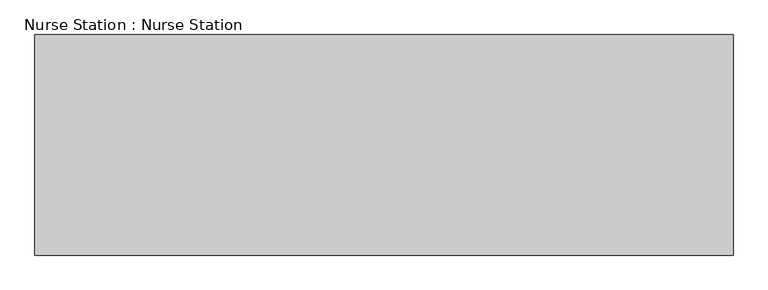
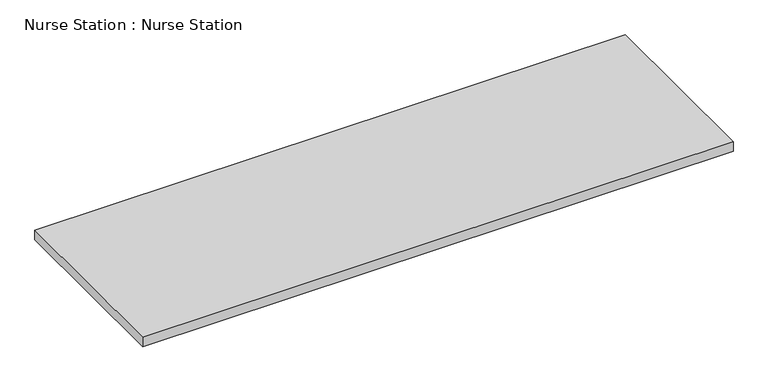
"""IFC4 building model written with IfcOpenShell, lengths in millimetres: furniture geometry, Nurse Station : Nurse Station."""

from ifc_helpers import new_model, si_unit, frame, origin, place, context, project, spatial, polyline, outline, extrude, source, transform, mapped, element, save


def nurse_station_nurse_station_bd2f0480(model_context):
    return source(origin(), model_context, "Body", "SweptSolid", [
        extrude(outline(polyline([(45848.96766, -10455.3684808), (43475.46766, -10455.3684808), (43475.46766, -9705.3684808), (45848.96766, -9705.3684808), (45848.96766, -10455.3684808)])), frame((0.0, 0.0, 710.0), z_axis=(0.0, 0.0, 1.0), x_axis=(1.0, 0.0, 0.0)), (0.0, 0.0, 1.0), 40.0),
    ])


if __name__ == "__main__":
    model = new_model("IFC4")
    model_context = context("Model", 3, world=origin())
    ifc_project = project(units=[si_unit("LENGTHUNIT", "METRE", prefix="MILLI")], contexts=[model_context])
    site = spatial("IfcSite", under=ifc_project)
    building = spatial("IfcBuilding", under=site)
    placement = place(None, origin())
    nurse_station_nurse_station_shape = nurse_station_nurse_station_bd2f0480(model_context)
    element("IfcFurniture", 1, ObjectType="Nurse Station : Nurse Station", at=placement, inside=building, context=model_context, shape_type="MappedRepresentation", body=[
        mapped(nurse_station_nurse_station_shape, transform((0.0, 0.0, 0.0), x_axis=(1.0, 0.0, 0.0), y_axis=(0.0, 1.0, 0.0), z_axis=(0.0, 0.0, 1.0))),
    ])
    save(model, "model.ifc")
